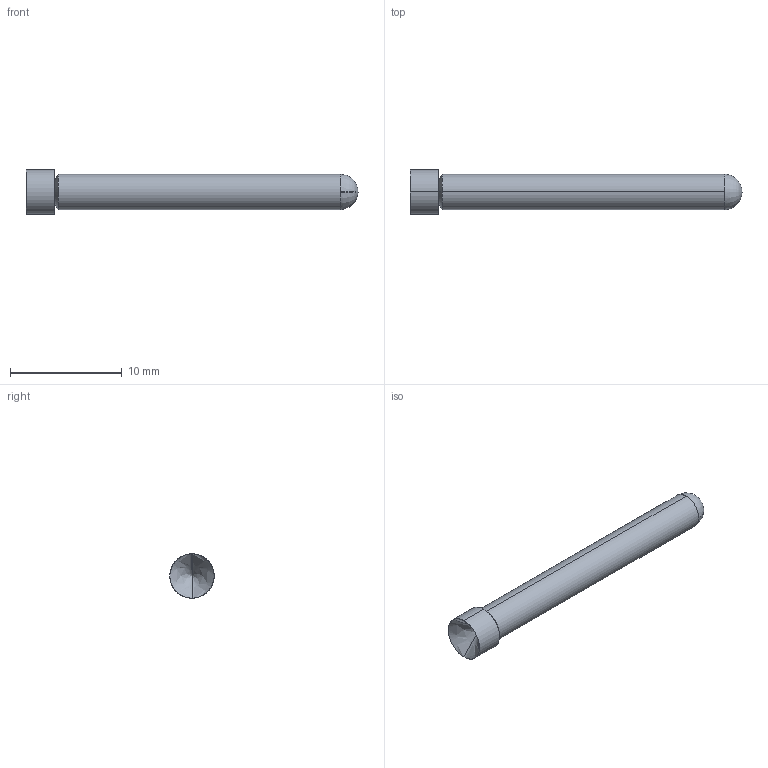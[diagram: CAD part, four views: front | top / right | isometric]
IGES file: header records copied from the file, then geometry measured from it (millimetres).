
Start section: SolidWorks IGES file using analytic representation for surfaces
Global section: file name: Z:\probe solid model mockups\Solidworks models\IGES Files\HCP-15 IGES files\HCP-15A Full.IGS; native system: SolidWorks 2006 by SolidWorks Corporation; preprocessor: SolidWorks 2006 by SolidWorks Corporation; author: tsakatani; date: 071202.143725; units: inch
Bounding box: 29.72 x 3.96 x 3.96 mm (x, y, z)
Surface area: 331.3 mm2 (no closed solid volume)
Topology: 0 solids, 0 shells, 11 faces, 108 edges, 104 vertices
Faces by surface type: revolution 10, bspline 1
